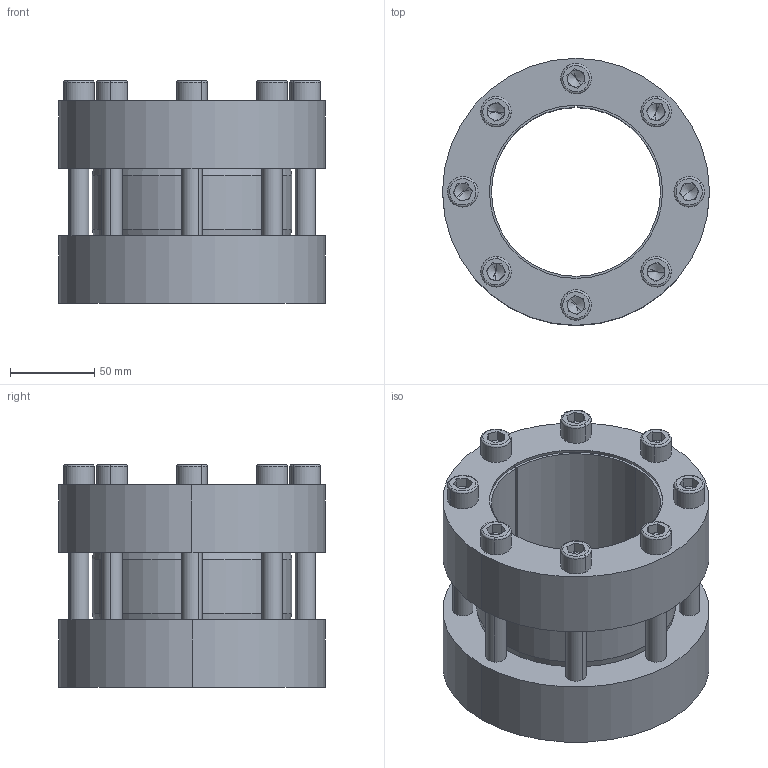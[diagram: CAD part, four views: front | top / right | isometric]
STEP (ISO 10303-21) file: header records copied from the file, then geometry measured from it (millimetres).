
FILE_DESCRIPTION (( 'STEP AP214' ), '1' );
FILE_NAME ('CONEX-M-CN_912-023.STEP', '2018-04-04T06:59:09', ( '' ), ( '' ), 'SwSTEP 2.0', 'SolidWorks 2013', '' );
FILE_SCHEMA (( 'AUTOMOTIVE_DESIGN' ));
Length unit declared in the file: millimetre
Products named in the file (1): CONEX-M-CN_912-023
Bounding box: 158 x 158 x 131.89 mm (x, y, z)
Volume: 1094469.3 mm3; surface area: 182686.6 mm2
Topology: 1 solids, 1 shells, 268 faces, 646 edges, 388 vertices
Faces by surface type: plane 120, cylinder 74, cone 42, torus 32
Entity records: 10741 total; most frequent: DIRECTION 1470, CARTESIAN_POINT 1326, ORIENTED_EDGE 1260, EDGE_CURVE 630, AXIS2_PLACEMENT_3D 579, VERTEX_POINT 388, VECTOR 312, EDGE_LOOP 312
